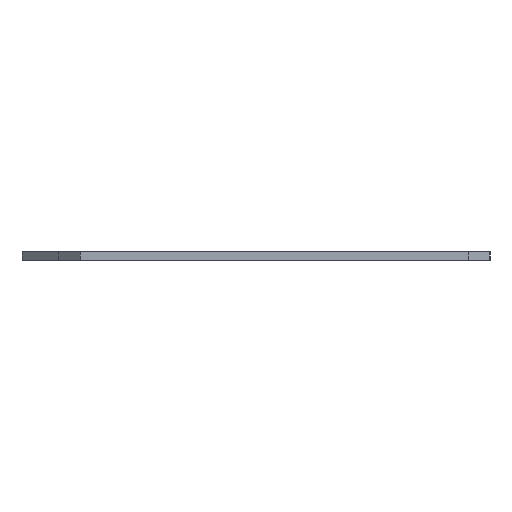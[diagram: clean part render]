
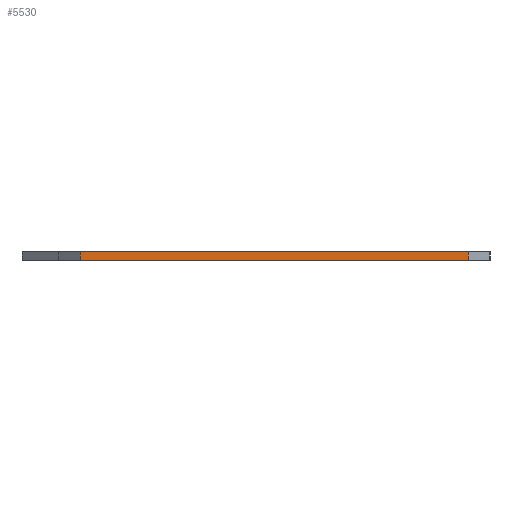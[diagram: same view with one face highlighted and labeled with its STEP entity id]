
A CAD part, left-side view. The second image highlights one B-rep face of the part: STEP entity #5530.
In plain terms, the highlighted planar face has unit normal (-1, 0, 0).
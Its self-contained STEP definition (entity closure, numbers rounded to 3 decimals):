
#44 = PLANE('',#45);
#45 = AXIS2_PLACEMENT_3D('',#46,#47,#48);
#46 = CARTESIAN_POINT('',(-58.,-39.,6.4));
#47 = DIRECTION('',(0.707,0.707,-0.));
#48 = DIRECTION('',(0.707,-0.707,0.));
#72 = PLANE('',#73);
#73 = AXIS2_PLACEMENT_3D('',#74,#75,#76);
#74 = CARTESIAN_POINT('',(0.956,-1.253,7.9));
#75 = DIRECTION('',(0.,0.,1.));
#76 = DIRECTION('',(1.,0.,0.));
#126 = PLANE('',#127);
#127 = AXIS2_PLACEMENT_3D('',#128,#129,#130);
#128 = CARTESIAN_POINT('',(0.956,-1.253,6.4));
#129 = DIRECTION('',(0.,0.,1.));
#130 = DIRECTION('',(1.,0.,0.));
#141 = EDGE_CURVE('',#142,#144,#146,.T.);
#142 = VERTEX_POINT('',#143);
#143 = CARTESIAN_POINT('',(-58.,-39.,6.4));
#144 = VERTEX_POINT('',#145);
#145 = CARTESIAN_POINT('',(-58.,-39.,7.9));
#146 = SURFACE_CURVE('',#147,(#151,#158),.PCURVE_S1.);
#147 = LINE('',#148,#149);
#148 = CARTESIAN_POINT('',(-58.,-39.,6.4));
#149 = VECTOR('',#150,1.);
#150 = DIRECTION('',(0.,0.,1.));
#151 = PCURVE('',#44,#152);
#152 = DEFINITIONAL_REPRESENTATION('',(#153),#157);
#153 = LINE('',#154,#155);
#154 = CARTESIAN_POINT('',(0.,0.));
#155 = VECTOR('',#156,1.);
#156 = DIRECTION('',(0.,-1.));
#157 = ( GEOMETRIC_REPRESENTATION_CONTEXT(2) 
PARAMETRIC_REPRESENTATION_CONTEXT() REPRESENTATION_CONTEXT('2D SPACE',''
  ) );
#158 = PCURVE('',#159,#164);
#159 = PLANE('',#160);
#160 = AXIS2_PLACEMENT_3D('',#161,#162,#163);
#161 = CARTESIAN_POINT('',(-58.,32.25,6.4));
#162 = DIRECTION('',(1.,0.,-0.));
#163 = DIRECTION('',(0.,-1.,0.));
#164 = DEFINITIONAL_REPRESENTATION('',(#165),#169);
#165 = LINE('',#166,#167);
#166 = CARTESIAN_POINT('',(71.25,0.));
#167 = VECTOR('',#168,1.);
#168 = DIRECTION('',(0.,-1.));
#169 = ( GEOMETRIC_REPRESENTATION_CONTEXT(2) 
PARAMETRIC_REPRESENTATION_CONTEXT() REPRESENTATION_CONTEXT('2D SPACE',''
  ) );
#431 = VERTEX_POINT('',#432);
#432 = CARTESIAN_POINT('',(-58.,32.25,6.4));
#446 = PLANE('',#447);
#447 = AXIS2_PLACEMENT_3D('',#448,#449,#450);
#448 = CARTESIAN_POINT('',(-54.,36.25,6.4));
#449 = DIRECTION('',(0.707,-0.707,0.));
#450 = DIRECTION('',(-0.707,-0.707,0.));
#458 = EDGE_CURVE('',#431,#142,#459,.T.);
#459 = SURFACE_CURVE('',#460,(#464,#471),.PCURVE_S1.);
#460 = LINE('',#461,#462);
#461 = CARTESIAN_POINT('',(-58.,32.25,6.4));
#462 = VECTOR('',#463,1.);
#463 = DIRECTION('',(0.,-1.,0.));
#464 = PCURVE('',#126,#465);
#465 = DEFINITIONAL_REPRESENTATION('',(#466),#470);
#466 = LINE('',#467,#468);
#467 = CARTESIAN_POINT('',(-58.956,33.503));
#468 = VECTOR('',#469,1.);
#469 = DIRECTION('',(0.,-1.));
#470 = ( GEOMETRIC_REPRESENTATION_CONTEXT(2) 
PARAMETRIC_REPRESENTATION_CONTEXT() REPRESENTATION_CONTEXT('2D SPACE',''
  ) );
#471 = PCURVE('',#159,#472);
#472 = DEFINITIONAL_REPRESENTATION('',(#473),#477);
#473 = LINE('',#474,#475);
#474 = CARTESIAN_POINT('',(0.,0.));
#475 = VECTOR('',#476,1.);
#476 = DIRECTION('',(1.,0.));
#477 = ( GEOMETRIC_REPRESENTATION_CONTEXT(2) 
PARAMETRIC_REPRESENTATION_CONTEXT() REPRESENTATION_CONTEXT('2D SPACE',''
  ) );
#3269 = VERTEX_POINT('',#3270);
#3270 = CARTESIAN_POINT('',(-58.,32.25,7.9));
#3291 = EDGE_CURVE('',#3269,#144,#3292,.T.);
#3292 = SURFACE_CURVE('',#3293,(#3297,#3304),.PCURVE_S1.);
#3293 = LINE('',#3294,#3295);
#3294 = CARTESIAN_POINT('',(-58.,32.25,7.9));
#3295 = VECTOR('',#3296,1.);
#3296 = DIRECTION('',(0.,-1.,0.));
#3297 = PCURVE('',#72,#3298);
#3298 = DEFINITIONAL_REPRESENTATION('',(#3299),#3303);
#3299 = LINE('',#3300,#3301);
#3300 = CARTESIAN_POINT('',(-58.956,33.503));
#3301 = VECTOR('',#3302,1.);
#3302 = DIRECTION('',(0.,-1.));
#3303 = ( GEOMETRIC_REPRESENTATION_CONTEXT(2) 
PARAMETRIC_REPRESENTATION_CONTEXT() REPRESENTATION_CONTEXT('2D SPACE',''
  ) );
#3304 = PCURVE('',#159,#3305);
#3305 = DEFINITIONAL_REPRESENTATION('',(#3306),#3310);
#3306 = LINE('',#3307,#3308);
#3307 = CARTESIAN_POINT('',(0.,-1.5));
#3308 = VECTOR('',#3309,1.);
#3309 = DIRECTION('',(1.,0.));
#3310 = ( GEOMETRIC_REPRESENTATION_CONTEXT(2) 
PARAMETRIC_REPRESENTATION_CONTEXT() REPRESENTATION_CONTEXT('2D SPACE',''
  ) );
#5530 = ADVANCED_FACE('',(#5531),#159,.F.);
#5531 = FACE_BOUND('',#5532,.F.);
#5532 = EDGE_LOOP('',(#5533,#5554,#5555,#5556));
#5533 = ORIENTED_EDGE('',*,*,#5534,.T.);
#5534 = EDGE_CURVE('',#431,#3269,#5535,.T.);
#5535 = SURFACE_CURVE('',#5536,(#5540,#5547),.PCURVE_S1.);
#5536 = LINE('',#5537,#5538);
#5537 = CARTESIAN_POINT('',(-58.,32.25,6.4));
#5538 = VECTOR('',#5539,1.);
#5539 = DIRECTION('',(0.,0.,1.));
#5540 = PCURVE('',#159,#5541);
#5541 = DEFINITIONAL_REPRESENTATION('',(#5542),#5546);
#5542 = LINE('',#5543,#5544);
#5543 = CARTESIAN_POINT('',(0.,0.));
#5544 = VECTOR('',#5545,1.);
#5545 = DIRECTION('',(0.,-1.));
#5546 = ( GEOMETRIC_REPRESENTATION_CONTEXT(2) 
PARAMETRIC_REPRESENTATION_CONTEXT() REPRESENTATION_CONTEXT('2D SPACE',''
  ) );
#5547 = PCURVE('',#446,#5548);
#5548 = DEFINITIONAL_REPRESENTATION('',(#5549),#5553);
#5549 = LINE('',#5550,#5551);
#5550 = CARTESIAN_POINT('',(5.657,0.));
#5551 = VECTOR('',#5552,1.);
#5552 = DIRECTION('',(0.,-1.));
#5553 = ( GEOMETRIC_REPRESENTATION_CONTEXT(2) 
PARAMETRIC_REPRESENTATION_CONTEXT() REPRESENTATION_CONTEXT('2D SPACE',''
  ) );
#5554 = ORIENTED_EDGE('',*,*,#3291,.T.);
#5555 = ORIENTED_EDGE('',*,*,#141,.F.);
#5556 = ORIENTED_EDGE('',*,*,#458,.F.);
